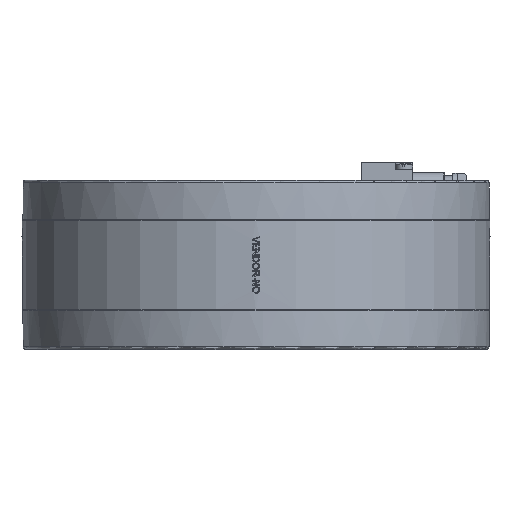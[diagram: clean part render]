
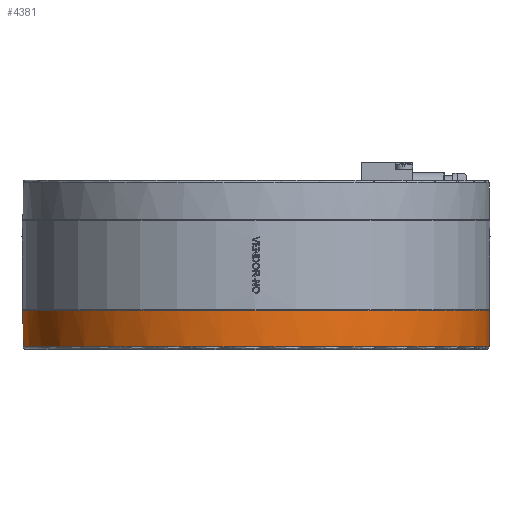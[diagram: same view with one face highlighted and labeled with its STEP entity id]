
A CAD part, front view. The second image highlights one B-rep face of the part: STEP entity #4381.
In plain terms, the highlighted cylindrical face has radius 82.5 mm (diameter 165 mm), a full revolution.
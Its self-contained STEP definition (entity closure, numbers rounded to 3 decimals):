
#4381 = ADVANCED_FACE( '', ( #9273, #9274 ), #9275, .T. );
#9273 = FACE_OUTER_BOUND( '', #15352, .T. );
#9274 = FACE_OUTER_BOUND( '', #15353, .T. );
#9275 = CYLINDRICAL_SURFACE( '', #15354, 82.5 );
#15352 = EDGE_LOOP( '', ( #29684 ) );
#15353 = EDGE_LOOP( '', ( #29685, #29686, #29687, #29688, #29689, #29690 ) );
#15354 = AXIS2_PLACEMENT_3D( '', #29691, #29692, #29693 );
#29684 = ORIENTED_EDGE( '', *, *, #41795, .T. );
#29685 = ORIENTED_EDGE( '', *, *, #41796, .T. );
#29686 = ORIENTED_EDGE( '', *, *, #41797, .T. );
#29687 = ORIENTED_EDGE( '', *, *, #39437, .T. );
#29688 = ORIENTED_EDGE( '', *, *, #41246, .F. );
#29689 = ORIENTED_EDGE( '', *, *, #40495, .T. );
#29690 = ORIENTED_EDGE( '', *, *, #41798, .T. );
#29691 = CARTESIAN_POINT( '', ( 0., 0., 30. ) );
#29692 = DIRECTION( '', ( 0., 0., 1. ) );
#29693 = DIRECTION( '', ( -1., 0., 0. ) );
#39437 = EDGE_CURVE( '', #45994, #45995, #45996, .T. );
#40495 = EDGE_CURVE( '', #47702, #47700, #47703, .T. );
#41246 = EDGE_CURVE( '', #47702, #45995, #48886, .T. );
#41795 = EDGE_CURVE( '', #49673, #49673, #49674, .T. );
#41796 = EDGE_CURVE( '', #49675, #49676, #49677, .T. );
#41797 = EDGE_CURVE( '', #49676, #45994, #49678, .T. );
#41798 = EDGE_CURVE( '', #47700, #49675, #49679, .T. );
#45994 = VERTEX_POINT( '', #55578 );
#45995 = VERTEX_POINT( '', #55579 );
#45996 = ELLIPSE( '', #55580, 116.673, 82.5 );
#47700 = VERTEX_POINT( '', #58457 );
#47702 = VERTEX_POINT( '', #58460 );
#47703 = ELLIPSE( '', #58461, 116.673, 82.5 );
#48886 = CIRCLE( '', #60668, 82.5 );
#49673 = VERTEX_POINT( '', #61892 );
#49674 = CIRCLE( '', #61893, 82.5 );
#49675 = VERTEX_POINT( '', #61894 );
#49676 = VERTEX_POINT( '', #61895 );
#49677 = CIRCLE( '', #61896, 82.5 );
#49678 = LINE( '', #61897, #61898 );
#49679 = LINE( '', #61899, #61900 );
#55578 = CARTESIAN_POINT( '', ( 20.156, 80., -15.85 ) );
#55579 = CARTESIAN_POINT( '', ( 21.123, 79.75, -16.1 ) );
#55580 = AXIS2_PLACEMENT_3D( '', #67797, #67798, #67799 );
#58457 = CARTESIAN_POINT( '', ( -20.156, 80., -15.85 ) );
#58460 = CARTESIAN_POINT( '', ( -21.123, 79.75, -16.1 ) );
#58461 = AXIS2_PLACEMENT_3D( '', #69063, #69064, #69065 );
#60668 = AXIS2_PLACEMENT_3D( '', #69912, #69913, #69914 );
#61892 = CARTESIAN_POINT( '', ( 82.5, 0., -29. ) );
#61893 = AXIS2_PLACEMENT_3D( '', #70560, #70561, #70562 );
#61894 = CARTESIAN_POINT( '', ( -20.156, 80., -16.55 ) );
#61895 = CARTESIAN_POINT( '', ( 20.156, 80., -16.55 ) );
#61896 = AXIS2_PLACEMENT_3D( '', #70563, #70564, #70565 );
#61897 = CARTESIAN_POINT( '', ( 20.156, 80., 30. ) );
#61898 = VECTOR( '', #70566, 1000. );
#61899 = CARTESIAN_POINT( '', ( -20.156, 80., 30. ) );
#61900 = VECTOR( '', #70567, 1000. );
#67797 = CARTESIAN_POINT( '', ( 0., 0., -95.85 ) );
#67798 = DIRECTION( '', ( 0., 0.707, -0.707 ) );
#67799 = DIRECTION( '', ( 0., -0.707, -0.707 ) );
#69063 = CARTESIAN_POINT( '', ( 0., 0., -95.85 ) );
#69064 = DIRECTION( '', ( 0., 0.707, -0.707 ) );
#69065 = DIRECTION( '', ( 0., -0.707, -0.707 ) );
#69912 = CARTESIAN_POINT( '', ( 0., 0., -16.1 ) );
#69913 = DIRECTION( '', ( 0., 0., 1. ) );
#69914 = DIRECTION( '', ( 1., 0., 0. ) );
#70560 = CARTESIAN_POINT( '', ( 0., 0., -29. ) );
#70561 = DIRECTION( '', ( 0., 0., 1. ) );
#70562 = DIRECTION( '', ( 1., 0., 0. ) );
#70563 = CARTESIAN_POINT( '', ( 0., 0., -16.55 ) );
#70564 = DIRECTION( '', ( 0., 0., -1. ) );
#70565 = DIRECTION( '', ( -1., 0., 0. ) );
#70566 = DIRECTION( '', ( 0., 0., 1. ) );
#70567 = DIRECTION( '', ( 0., 0., -1. ) );
